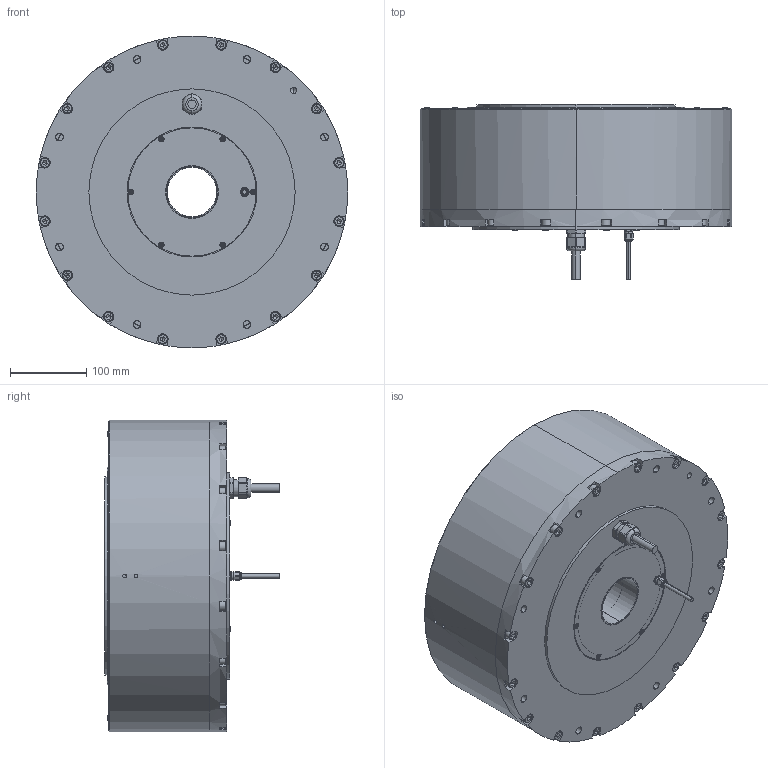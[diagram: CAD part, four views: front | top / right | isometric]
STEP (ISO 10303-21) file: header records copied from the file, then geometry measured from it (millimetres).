
FILE_DESCRIPTION (( 'STEP AP214' ), '1' );
FILE_NAME ('ND400-160-LSP(INC).step', '2025-03-10T02:35:05', ( '' ), ( '' ), 'SwSTEP 2.0', 'SolidWorks 2024', '' );
FILE_SCHEMA (( 'AUTOMOTIVE_DESIGN' ));
Length unit declared in the file: millimetre
Products named in the file (1): ND400-160-LSP(INC)
Bounding box: 408 x 229.1 x 408 mm (x, y, z)
Volume: 6098912.9 mm3; surface area: 1117543.2 mm2
Topology: 51 solids, 51 shells, 1948 faces, 4945 edges, 3072 vertices
Faces by surface type: cylinder 864, plane 596, cone 350, torus 106, sphere 32
Entity records: 61122 total; most frequent: CARTESIAN_POINT 14070, DIRECTION 9963, ORIENTED_EDGE 9530, EDGE_CURVE 4765, AXIS2_PLACEMENT_3D 3899, VERTEX_POINT 3072, EDGE_LOOP 2227, VECTOR 2165
